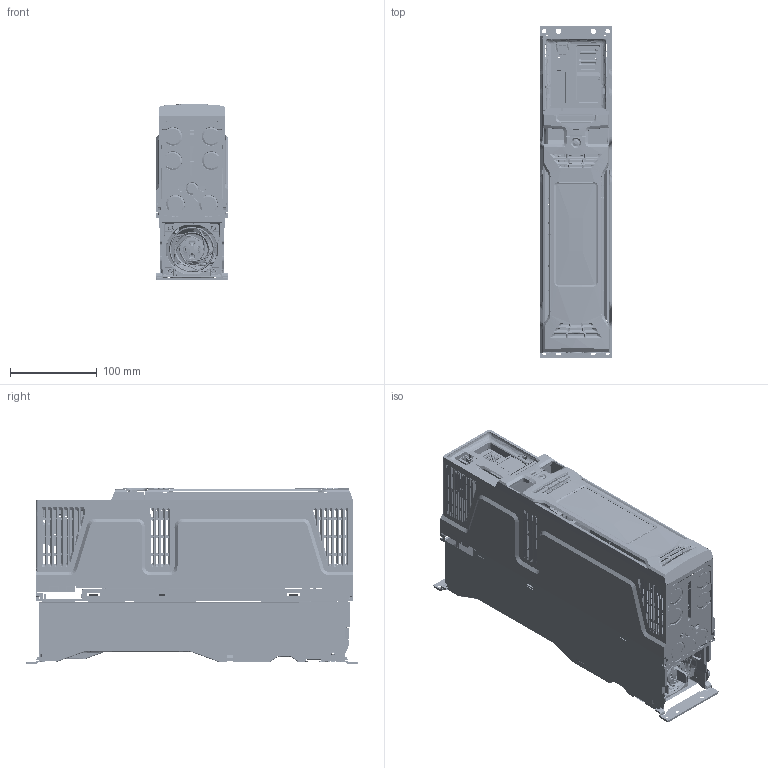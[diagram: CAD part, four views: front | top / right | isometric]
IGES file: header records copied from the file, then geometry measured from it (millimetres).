
Start section:  PTC IGES file: unim03_with_covers.igs
Global section: file name: unim03_with_covers.igs; native system: Pro/ENGINEER by Parametric Technology Corporation; preprocessor: 2011490; author: lewisi02; organization: Unknown; date: 20130903.140801; units: millimetre
Bounding box: 83.2 x 382 x 202.45 mm (x, y, z)
Surface area: 528166.5 mm2 (no closed solid volume)
Topology: 0 solids, 0 shells, 2579 faces, 21055 edges, 21049 vertices
Faces by surface type: bspline 2579
